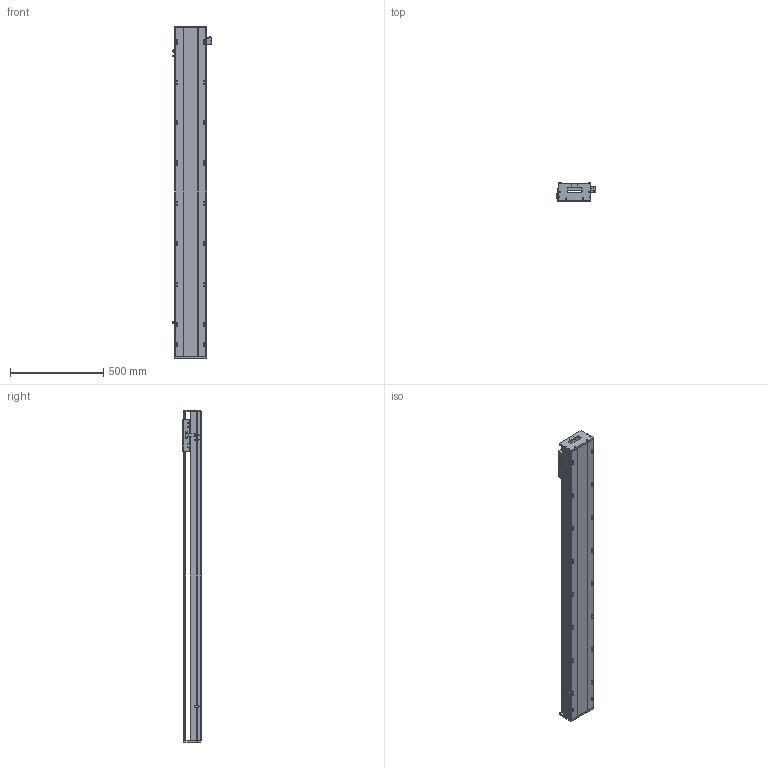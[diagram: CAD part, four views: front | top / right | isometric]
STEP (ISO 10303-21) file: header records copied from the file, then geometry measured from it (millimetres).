
FILE_DESCRIPTION (( 'STEP AP203' ), '1' );
FILE_NAME ('SKR17S-C1-S1506（简）.STEP', '2022-09-29T05:50:49', ( '' ), ( '' ), 'SwSTEP 2.0', 'SolidWorks 2018', '' );
FILE_SCHEMA (( 'CONFIG_CONTROL_DESIGN' ));
Length unit declared in the file: millimetre
Products named in the file (8): SKR17耜啣; SIKO棠掑; SKR17滑台-170L（简）; EE-SX672; SKR17菁釱-C1-S1506(潠); 棠掑假蚾輸; 感应片（SKR12S-14S-17S）; SKR17S-C1-S1506（简）
Assembly tree (10 placements, depth 2):
  SKR17S-C1-S1506（简）
    SKR17菁釱-C1-S1506(潠)
    SKR17滑台-170L（简）
    SIKO棠掑
    EE-SX672  x3
    SKR17耜啣  x2
    棠掑假蚾輸
    感应片（SKR12S-14S-17S）
Bounding box: 212.7 x 97 x 1776 mm (x, y, z)
Volume: 13746435.2 mm3; surface area: 1692159.1 mm2
Topology: 11 solids, 11 shells, 1233 faces, 3423 edges, 2202 vertices
Faces by surface type: cylinder 596, plane 509, cone 128
Entity records: 38022 total; most frequent: CARTESIAN_POINT 10217, ORIENTED_EDGE 5850, DIRECTION 5380, EDGE_CURVE 2925, AXIS2_PLACEMENT_3D 1917, VERTEX_POINT 1906, VECTOR 1546, LINE 1546
